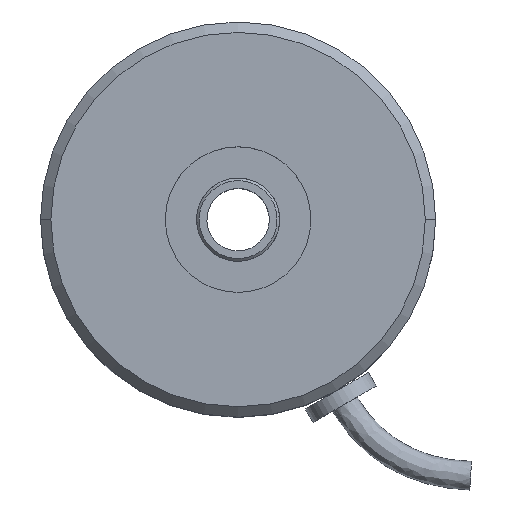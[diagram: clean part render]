
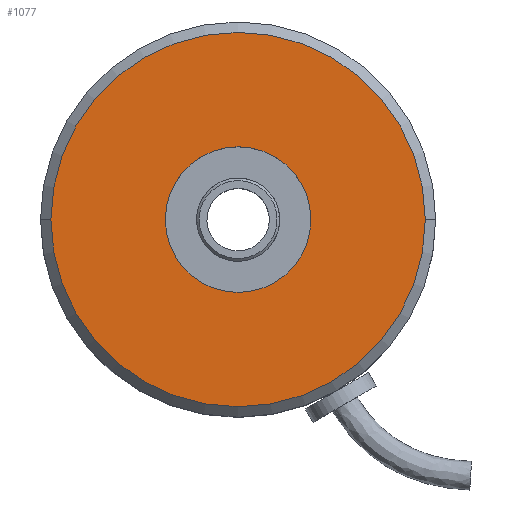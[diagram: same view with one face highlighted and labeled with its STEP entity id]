
A CAD part, top view. The second image highlights one B-rep face of the part: STEP entity #1077.
In plain terms, the highlighted planar face has unit normal (0, 0, 1).
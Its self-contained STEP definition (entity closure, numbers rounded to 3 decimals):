
#11 = DIRECTION ( 'NONE',  ( 0., 0., 1. ) ) ;
#13 = DIRECTION ( 'NONE',  ( 1., 0., 0. ) ) ;
#82 = FACE_BOUND ( 'NONE', #1462, .T. ) ;
#125 = ORIENTED_EDGE ( 'NONE', *, *, #892, .F. ) ;
#177 = PLANE ( 'NONE',  #1381 ) ;
#182 = AXIS2_PLACEMENT_3D ( 'NONE', #1001, #11, #270 ) ;
#195 = VERTEX_POINT ( 'NONE', #861 ) ;
#270 = DIRECTION ( 'NONE',  ( 1., 0., 0. ) ) ;
#334 = DIRECTION ( 'NONE',  ( 1., 0., 0. ) ) ;
#348 = DIRECTION ( 'NONE',  ( 1., 0., 0. ) ) ;
#377 = AXIS2_PLACEMENT_3D ( 'NONE', #1248, #640, #13 ) ;
#383 = CARTESIAN_POINT ( 'NONE',  ( 0., 0., 30. ) ) ;
#423 = CARTESIAN_POINT ( 'NONE',  ( 36., 0., 30. ) ) ;
#462 = CARTESIAN_POINT ( 'NONE',  ( 0., 0., 30. ) ) ;
#481 = CIRCLE ( 'NONE', #611, 36. ) ;
#591 = DIRECTION ( 'NONE',  ( 1., 0., 0. ) ) ;
#596 = ORIENTED_EDGE ( 'NONE', *, *, #1284, .T. ) ;
#600 = VERTEX_POINT ( 'NONE', #1218 ) ;
#611 = AXIS2_PLACEMENT_3D ( 'NONE', #462, #831, #334 ) ;
#640 = DIRECTION ( 'NONE',  ( 0., 0., 1. ) ) ;
#815 = EDGE_CURVE ( 'NONE', #1415, #600, #481, .T. ) ;
#831 = DIRECTION ( 'NONE',  ( 0., 0., 1. ) ) ;
#838 = ORIENTED_EDGE ( 'NONE', *, *, #1404, .F. ) ;
#861 = CARTESIAN_POINT ( 'NONE',  ( 14., 0., 30. ) ) ;
#892 = EDGE_CURVE ( 'NONE', #1181, #195, #1102, .T. ) ;
#900 = AXIS2_PLACEMENT_3D ( 'NONE', #383, #1346, #348 ) ;
#964 = ORIENTED_EDGE ( 'NONE', *, *, #815, .T. ) ;
#1001 = CARTESIAN_POINT ( 'NONE',  ( 0., 0., 30. ) ) ;
#1052 = FACE_OUTER_BOUND ( 'NONE', #1104, .T. ) ;
#1059 = CARTESIAN_POINT ( 'NONE',  ( 0., 0., 30. ) ) ;
#1077 = ADVANCED_FACE ( 'NONE', ( #1052, #82 ), #177, .T. ) ;
#1102 = CIRCLE ( 'NONE', #182, 14. ) ;
#1104 = EDGE_LOOP ( 'NONE', ( #596, #964 ) ) ;
#1118 = CARTESIAN_POINT ( 'NONE',  ( -14., 0., 30. ) ) ;
#1181 = VERTEX_POINT ( 'NONE', #1118 ) ;
#1218 = CARTESIAN_POINT ( 'NONE',  ( -36., 0., 30. ) ) ;
#1248 = CARTESIAN_POINT ( 'NONE',  ( 0., 0., 30. ) ) ;
#1284 = EDGE_CURVE ( 'NONE', #600, #1415, #1593, .T. ) ;
#1346 = DIRECTION ( 'NONE',  ( 0., 0., 1. ) ) ;
#1381 = AXIS2_PLACEMENT_3D ( 'NONE', #1059, #1448, #591 ) ;
#1404 = EDGE_CURVE ( 'NONE', #195, #1181, #1564, .T. ) ;
#1415 = VERTEX_POINT ( 'NONE', #423 ) ;
#1448 = DIRECTION ( 'NONE',  ( 0., 0., 1. ) ) ;
#1462 = EDGE_LOOP ( 'NONE', ( #838, #125 ) ) ;
#1564 = CIRCLE ( 'NONE', #377, 14. ) ;
#1593 = CIRCLE ( 'NONE', #900, 36. ) ;
